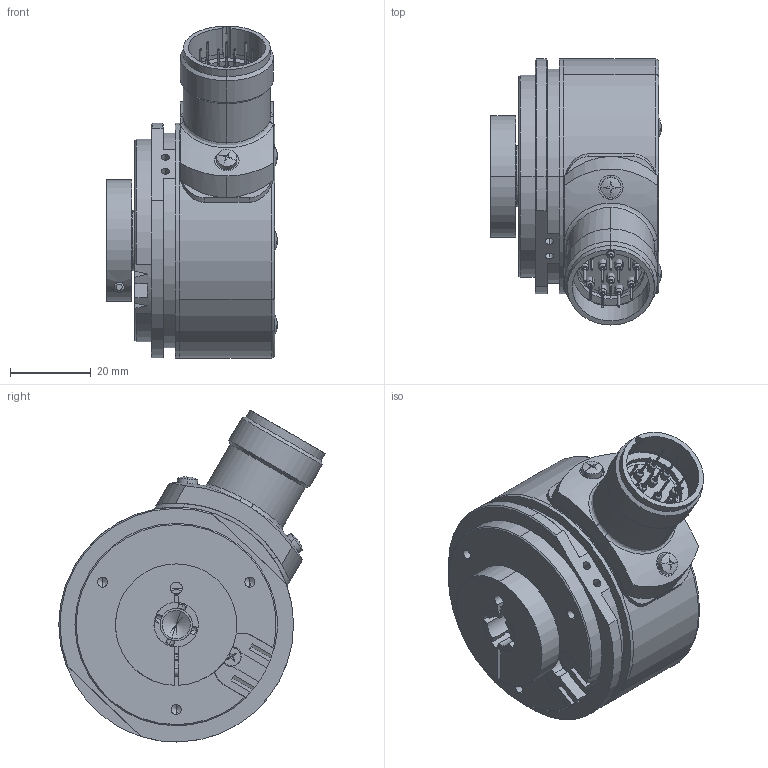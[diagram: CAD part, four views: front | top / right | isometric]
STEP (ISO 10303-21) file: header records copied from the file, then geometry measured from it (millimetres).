
FILE_DESCRIPTION (( 'STEP AP203' ), '1' );
FILE_NAME ('8.5825.23X2.XXXX.STEP', '2013-02-22T14:25:09', ( 'Hodot' ), ( '' ), 'SwSTEP 2.0', 'SolidWorks 2012', '' );
FILE_SCHEMA (( 'CONFIG_CONTROL_DESIGN' ));
Length unit declared in the file: millimetre
Products named in the file (1): 8.5825.23X2.XXXX
Bounding box: 42.18 x 65.81 x 82.01 mm (x, y, z)
Volume: 58706.8 mm3; surface area: 43244.6 mm2
Topology: 30 solids, 31 shells, 996 faces, 2368 edges, 1452 vertices
Faces by surface type: cylinder 423, plane 277, cone 158, torus 68, sphere 66, bspline 4
Entity records: 30944 total; most frequent: CARTESIAN_POINT 7888, DIRECTION 5186, ORIENTED_EDGE 4468, EDGE_CURVE 2234, AXIS2_PLACEMENT_3D 2153, VERTEX_POINT 1404, EDGE_LOOP 1190, CIRCLE 1160
